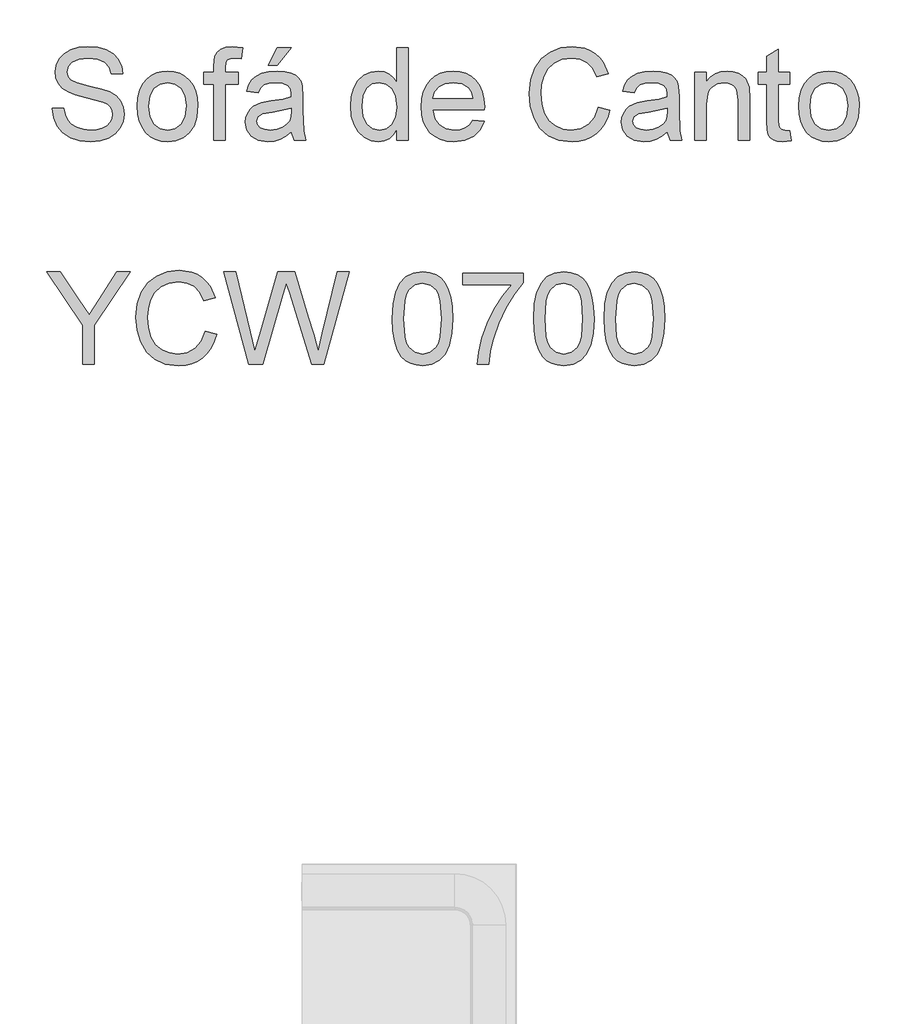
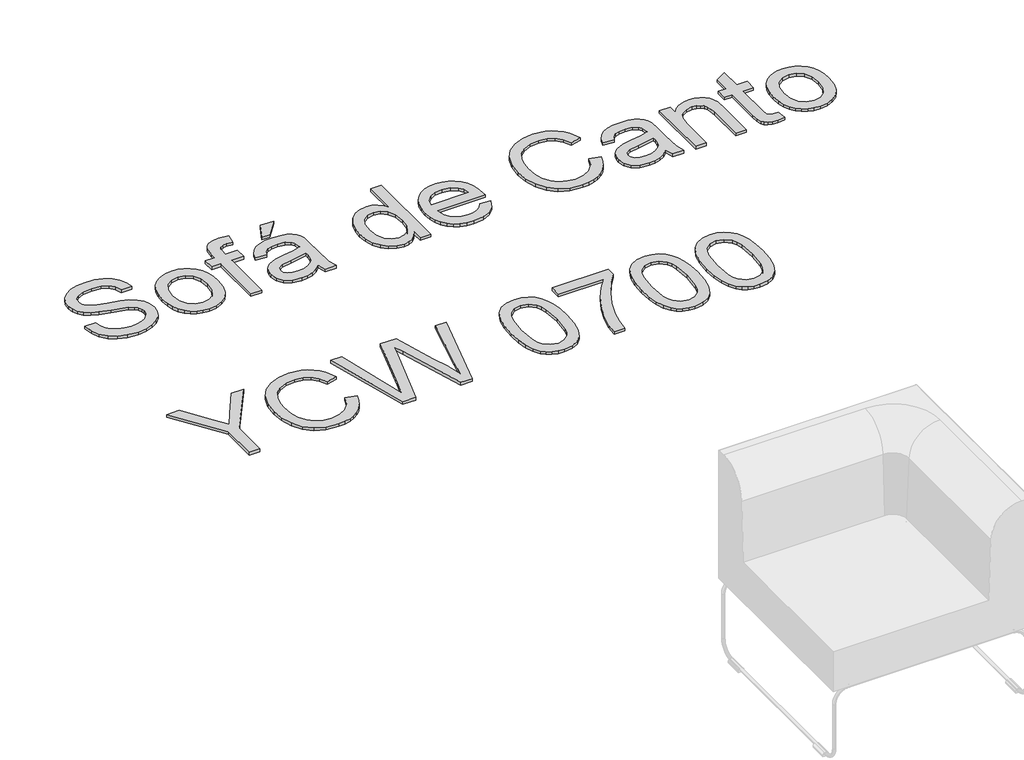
# One storey, part 17 of 26: 1 proxy.
"""IFC4 building model written with IfcOpenShell, lengths in millimetres."""

from ifc_helpers import new_model, si_unit, origin, origin_with_axes, place, context, project, spatial, polyline, outline, extrude, element, save

model = new_model("IFC4")

# Units and contexts
model_context = context("Model", 3, world=origin())
ifc_project = project(units=[si_unit("LENGTHUNIT", "METRE", prefix="MILLI")], contexts=[model_context])

# Site, building, storey
site = spatial("IfcSite", under=ifc_project)
building = spatial("IfcBuilding", under=site)
storey = spatial("IfcBuildingStorey", under=building, Name="Marelli - Linha YOUNG - Planta Baixa", Elevation=0.0)

# Proxy
placement = place(None, origin())
element("IfcBuildingElementProxy", 1, Name="300mm Arial", ObjectType="300mm Arial", at=placement, inside=storey, context=model_context, shape_type="SweptSolid", body=[
    extrude(outline(polyline([(19585.7785887, 188.9537033), (19623.449705, 188.9537033), (19627.7723184, 168.0488089), (19635.5898108, 151.2457988), (19647.7850989, 137.9100765), (19665.2410996, 127.4070455), (19686.5782553, 120.5920316), (19710.4170086, 118.3203602), (19731.4046764, 120.0402086), (19749.7803821, 125.1997535), (19764.6704059, 133.3667338), (19775.201028, 144.1088881), (19781.4642189, 156.442132), (19783.5519493, 169.3823812), (19781.9884508, 181.9915366), (19777.2979553, 192.8900407), (19767.7698117, 202.1882581), (19751.6933685, 209.9965534), (19696.842163, 224.3807394), (19660.8357127, 233.8996861), (19637.7971028, 242.9587802), (19619.0443181, 255.6323149), (19605.754581, 270.9913882), (19597.835921, 288.7049063), (19595.1963677, 308.4417753), (19598.4613204, 330.505498), (19608.2561786, 351.0792986), (19624.3234247, 368.5169052), (19646.4055415, 381.1720458), (19672.9114392, 388.8699765), (19702.2500283, 391.4359535), (19734.0350327, 388.7504149), (19761.8469115, 380.6937992), (19784.6923834, 367.4316533), (19801.578167, 349.129524), (19812.265139, 326.9278456), (19816.514176, 301.9670522), (19778.8430597, 301.9670522), (19771.9268782, 324.4446421), (19757.505904, 340.6682381), (19734.9731318, 350.4906874), (19703.7215563, 353.7648371), (19671.7342168, 350.5274756), (19649.7900558, 340.8153909), (19637.098127, 326.5231754), (19632.867484, 309.5454213), (19635.8657223, 295.0692648), (19644.8604371, 283.4257997), (19666.1240164, 273.0147392), (19706.3703067, 262.3829495), (19747.9041839, 252.2845888), (19773.0305242, 243.473815), (19794.5056357, 229.8069989), (19809.4876299, 212.9396094), (19818.2892067, 193.0555876), (19821.2230656, 170.3388744), (19817.8477483, 147.1163234), (19807.7217963, 125.2733299), (19791.2590771, 106.47456), (19768.8734577, 92.3846796), (19741.9536927, 83.5831028), (19711.8885366, 80.6492439), (19674.9807754, 83.8130291), (19644.6029197, 93.3043846), (19620.4054814, 109.1600986), (19602.0389728, 131.4169593), (19590.2483549, 158.5298623), (19585.7785887, 188.9537033)])), origin_with_axes(), (0.0, 0.0, 1.0), 10.0),
    extrude(outline(polyline([(19863.6030714, 196.0170376), (19865.640218, 224.6796436), (19871.7516576, 249.378321), (19881.9373903, 270.11307), (19896.1974162, 286.8838904), (19910.554011, 297.6030521), (19926.400528, 305.2595961), (19943.736967, 309.8535225), (19962.5633281, 311.3848313), (19983.3463616, 309.5201294), (20002.1382337, 303.9260239), (20018.9389446, 294.6025145), (20033.7484942, 281.5496015), (20045.835717, 265.2087431), (20054.4694476, 246.0213978), (20059.6496859, 223.9875656), (20061.376432, 199.1072464), (20058.3230115, 161.049854), (20049.1627498, 132.0791469), (20034.1623614, 110.3833062), (20013.5885608, 94.1505132), (19989.1519993, 84.0245612), (19962.5633281, 80.6492439), (19941.476792, 82.507048), (19922.5101759, 88.0804602), (19905.6634798, 97.3694806), (19890.9367037, 110.3741091), (19878.9782395, 126.8736166), (19870.4364795, 146.6472739), (19865.3114234, 169.6950809), (19863.6030714, 196.0170376)]), holes=[polyline([(19901.2741877, 196.090614), (19905.6335894, 161.9971501), (19918.7117943, 137.7077414), (19938.393481, 123.1672055), (19962.5633281, 118.3203602), (19986.6228106, 123.1947967), (20006.2677091, 137.818106), (20019.3459141, 162.4294115), (20023.7053157, 197.2678364), (20019.3183229, 230.3680189), (20006.1573445, 254.3263339), (19986.4848548, 268.8668697), (19962.5633281, 273.713715), (19938.393481, 268.8852638), (19918.7117943, 254.3999103), (19905.6335894, 230.1656838), (19901.2741877, 196.090614)])]), origin_with_axes(), (0.0, 0.0, 1.0), 10.0),
    extrude(outline(polyline([(20113.1742169, 85.3581335), (20113.1742169, 269.0048255), (20080.2119902, 269.0048255), (20080.2119902, 306.6759418), (20113.1742169, 306.6759418), (20113.1742169, 328.9695907), (20117.1473425, 360.3867131), (20124.7257116, 372.913095), (20136.424359, 382.8275148), (20152.7951078, 389.2838438), (20174.3897809, 391.4359535), (20208.7499593, 387.3156751), (20203.2317294, 351.9990036), (20181.5266916, 353.7648371), (20167.206885, 352.2013387), (20157.798303, 347.5108432), (20152.5835757, 338.5529166), (20150.8453332, 324.1871247), (20150.8453332, 306.6759418), (20193.2253391, 306.6759418), (20193.2253391, 269.0048255), (20150.8453332, 269.0048255), (20150.8453332, 85.3581335), (20113.1742169, 85.3581335)])), origin_with_axes(), (0.0, 0.0, 1.0), 10.0),
    extrude(outline(polyline([(20367.454252, 113.6114707), (20349.4556254, 98.178821), (20330.9235699, 88.0804602), (20311.4350212, 82.507048), (20290.566915, 80.6492439), (20259.0854133, 85.1190102), (20235.8628623, 98.5283089), (20221.5430557, 118.8905773), (20216.7697868, 144.2192527), (20218.5724086, 159.8358434), (20223.9802739, 174.0176943), (20232.3219981, 186.1578001), (20242.9261966, 195.6491556), (20269.3033357, 208.0099907), (20301.8976805, 213.6753734), (20340.4149254, 219.6350617), (20367.2335228, 226.6248196), (20367.454252, 235.0125291), (20364.8606839, 251.8247363), (20357.0799797, 262.8244079), (20339.6791614, 270.9913882), (20315.4357379, 273.713715), (20292.9949362, 271.9018962), (20277.3231632, 266.4664397), (20266.6361912, 256.4140642), (20259.1497926, 240.7514882), (20221.4786763, 245.4603778), (20228.0177788, 266.0617695), (20237.7758487, 282.2485773), (20251.663394, 294.6278064), (20270.5909227, 303.8064622), (20293.7398972, 309.490239), (20320.2917802, 311.3848313), (20345.7584113, 309.7109682), (20365.9459358, 304.689379), (20381.1670534, 297.138601), (20391.7344637, 287.8771718), (20398.7426157, 276.4268447), (20403.2859583, 262.3093731), (20405.1253683, 229.3471464), (20405.1253683, 182.4789802), (20407.0383547, 117.0327733), (20414.5431474, 85.3581335), (20376.8720311, 85.3581335), (20367.454252, 113.6114707)]), holes=[polyline([(20367.454252, 188.9537033), (20306.6801464, 177.4022087), (20274.2697426, 171.2953675), (20259.591251, 161.3625537), (20254.4409031, 146.8680031), (20257.2460033, 135.6659963), (20265.6613039, 126.4873405), (20279.502864, 120.3621053), (20298.5867425, 118.3203602), (20318.8202522, 120.5736375), (20336.6993172, 127.3334691), (20351.1938678, 137.2938741), (20361.2738345, 149.1488714), (20365.7436007, 161.3625537), (20367.2335228, 178.2851254), (20367.454252, 188.9537033)])]), origin_with_axes(), (0.0, 0.0, 1.0), 10.0),
    extrude(outline(polyline([(20292.1120194, 330.2203895), (20320.3653566, 386.7270639), (20367.454252, 386.7270639), (20320.3653566, 330.2203895), (20292.1120194, 330.2203895)])), origin_with_axes(), (0.0, 0.0, 1.0), 10.0),
    extrude(outline(polyline([(20711.2031883, 85.3581335), (20711.2031883, 120.8955342), (20699.9322037, 103.2877822), (20686.2791831, 90.7108165), (20670.2441267, 83.1646371), (20651.8270343, 80.6492439), (20627.4732462, 84.2912757), (20605.1795973, 95.2173709), (20586.3072509, 112.6641746), (20572.2173705, 135.8683314), (20563.4433849, 163.8917424), (20560.5187231, 195.7963084), (20563.2134587, 227.3054013), (20571.2976655, 255.7610736), (20584.7621466, 279.5446446), (20603.5977047, 297.0374335), (20626.3787973, 307.7979819), (20651.6798815, 311.3848313), (20670.1107694, 308.8188544), (20686.4079418, 301.1209236), (20700.2219107, 289.3211086), (20711.2031883, 274.449479), (20711.2031883, 386.7270639), (20748.8743046, 386.7270639), (20748.8743046, 85.3581335), (20711.2031883, 85.3581335)]), holes=[polyline([(20598.1898394, 195.9434612), (20602.4388764, 161.8683914), (20615.1859876, 137.634165), (20633.708846, 123.1488114), (20655.285125, 118.3203602), (20676.852207, 122.9280822), (20694.9060159, 136.7512482), (20707.1288952, 160.0473755), (20711.2031883, 193.0739817), (20707.0553188, 229.1815995), (20694.6117103, 254.2159693), (20676.0980489, 268.8392786), (20653.7400207, 273.713715), (20631.9430124, 269.0324166), (20614.0823416, 254.9885214), (20602.1629649, 230.8646596), (20598.1898394, 195.9434612)])]), origin_with_axes(), (0.0, 0.0, 1.0), 10.0),
    extrude(outline(polyline([(20960.3328754, 151.282587), (20997.2682277, 146.5736975), (20983.9600966, 118.7434245), (20962.7241084, 97.9396977), (20934.0385098, 84.9718574), (20898.3815474, 80.6492439), (20875.0072452, 82.5139458), (20854.1805257, 88.1080514), (20835.9013891, 97.4315607), (20820.1698353, 110.4844737), (20807.5192932, 126.903507), (20798.4831917, 146.3253771), (20793.0615307, 168.750084), (20791.2543104, 194.1776276), (20793.0799248, 220.4673947), (20798.5567681, 243.6393619), (20807.6848401, 263.6935292), (20820.4641409, 280.6298965), (20836.154308, 294.0851805), (20854.0149788, 303.6960976), (20874.0461535, 309.4626479), (20896.2478319, 311.3848313), (20917.7344397, 309.4672464), (20937.1655068, 303.7144917), (20954.5410333, 294.1265672), (20969.8610191, 280.7034729), (20982.3667077, 263.8038938), (20991.2993424, 243.7865147), (20996.6589232, 220.6513357), (20998.4454501, 194.3983568), (20998.2247209, 184.2448138), (20828.9254268, 184.2448138), (20835.4461351, 156.0466588), (20850.5936763, 135.3165084), (20872.4550638, 122.5693973), (20899.1173114, 118.3203602), (20919.1668802, 120.2885289), (20936.0526637, 126.1930349), (20949.7746622, 136.4017603), (20960.3328754, 151.282587)]), holes=[polyline([(20828.9254268, 221.9159301), (20960.7743338, 221.9159301), (20955.6791682, 241.818346), (20945.691172, 256.0553792), (20923.7286169, 269.2991311), (20896.1006791, 273.713715), (20870.7076244, 270.1912449), (20849.7107595, 259.6238346), (20835.1150413, 243.1519182), (20828.9254268, 221.9159301)])]), origin_with_axes(), (0.0, 0.0, 1.0), 10.0),
    extrude(outline(polyline([(21370.4477237, 192.4853705), (21408.11884, 182.7732858), (21400.664631, 159.3461005), (21390.7364157, 138.8757667), (21378.3341939, 121.3622845), (21363.4579657, 106.8056538), (21346.4434235, 95.3622245), (21327.6262594, 87.1883464), (21307.0064736, 82.2840195), (21284.584066, 80.6492439), (21240.888882, 85.5972568), (21206.1884128, 100.4412953), (21179.5905446, 124.6663247), (21160.2031634, 157.7573101), (21148.3665602, 196.6608311), (21144.4210258, 238.3234671), (21148.881595, 282.2669714), (21162.2633026, 320.2139992), (21183.8671728, 350.9597369), (21212.9942297, 373.2993711), (21247.5383491, 386.9018079), (21285.3934064, 391.4359535), (21326.6973574, 385.5682356), (21344.6660936, 378.2335884), (21360.8460036, 367.9650822), (21374.9703729, 355.03403), (21386.7724872, 339.7117449), (21403.4099504, 301.8934758), (21365.7388341, 292.9171551), (21352.6790233, 320.3887431), (21334.8367465, 339.2334983), (21311.9912746, 350.1320024), (21283.9218784, 353.7648371), (21251.5666569, 349.7365293), (21224.9871828, 337.6516058), (21204.8180524, 318.7792594), (21191.6938622, 294.3886831), (21184.4925721, 266.8159276), (21182.0921421, 238.3970435), (21184.9340305, 203.5954067), (21193.4596958, 173.5026595), (21207.9910346, 149.2684331), (21228.8499437, 132.0423587), (21253.8567223, 121.7508598), (21280.8316696, 118.3203602), (21312.2763832, 122.9924616), (21338.4787783, 137.0087656), (21358.2616326, 160.2221195), (21370.4477237, 192.4853705)])), origin_with_axes(), (0.0, 0.0, 1.0), 10.0),
    extrude(outline(polyline([(21596.4744215, 113.6114707), (21578.4757949, 98.178821), (21559.9437394, 88.0804602), (21540.4551907, 82.507048), (21519.5870845, 80.6492439), (21488.1055828, 85.1190102), (21464.8830318, 98.5283089), (21450.5632252, 118.8905773), (21445.7899563, 144.2192527), (21447.592578, 159.8358434), (21453.0004434, 174.0176943), (21461.3421676, 186.1578001), (21471.9463661, 195.6491556), (21498.3235052, 208.0099907), (21530.91785, 213.6753734), (21569.4350948, 219.6350617), (21596.2536923, 226.6248196), (21596.4744215, 235.0125291), (21593.8808534, 251.8247363), (21586.1001492, 262.8244079), (21568.6993309, 270.9913882), (21544.4559074, 273.713715), (21522.0151057, 271.9018962), (21506.3433327, 266.4664397), (21495.6563607, 256.4140642), (21488.1699621, 240.7514882), (21450.4988458, 245.4603778), (21457.0379483, 266.0617695), (21466.7960182, 282.2485773), (21480.6835635, 294.6278064), (21499.6110922, 303.8064622), (21522.7600667, 309.490239), (21549.3119497, 311.3848313), (21574.7785808, 309.7109682), (21594.9661053, 304.689379), (21610.1872229, 297.138601), (21620.7546332, 287.8771718), (21627.7627852, 276.4268447), (21632.3061278, 262.3093731), (21634.1455378, 229.3471464), (21634.1455378, 182.4789802), (21636.0585242, 117.0327733), (21643.5633169, 85.3581335), (21605.8922006, 85.3581335), (21596.4744215, 113.6114707)]), holes=[polyline([(21596.4744215, 188.9537033), (21535.7003159, 177.4022087), (21503.2899121, 171.2953675), (21488.6114205, 161.3625537), (21483.4610726, 146.8680031), (21486.2661728, 135.6659963), (21494.6814734, 126.4873405), (21508.5230335, 120.3621053), (21527.606912, 118.3203602), (21547.8404217, 120.5736375), (21565.7194867, 127.3334691), (21580.2140373, 137.2938741), (21590.294004, 149.1488714), (21594.7637702, 161.3625537), (21596.2536923, 178.2851254), (21596.4744215, 188.9537033)])]), origin_with_axes(), (0.0, 0.0, 1.0), 10.0),
    extrude(outline(polyline([(21685.9433227, 85.3581335), (21685.9433227, 306.6759418), (21723.614439, 306.6759418), (21723.614439, 275.7738542), (21736.701841, 291.3536567), (21752.4195992, 302.482087), (21770.7677138, 309.1591452), (21791.7461845, 311.3848313), (21810.3150282, 309.5914066), (21827.3203735, 304.2111324), (21841.5022244, 295.9153934), (21851.6005851, 285.3755742), (21862.8945624, 257.67406), (21864.8811252, 221.2537425), (21864.8811252, 85.3581335), (21827.2100089, 85.3581335), (21827.2100089, 216.176971), (21822.8690013, 249.5070797), (21816.8633278, 259.4306965), (21807.5283221, 267.1286273), (21795.5629602, 272.0674431), (21781.6662179, 273.713715), (21759.6024952, 270.0165009), (21740.7945282, 258.9248588), (21733.2782392, 249.8703632), (21727.9094613, 237.4957326), (21723.614439, 202.7860663), (21723.614439, 85.3581335), (21685.9433227, 85.3581335)])), origin_with_axes(), (0.0, 0.0, 1.0), 10.0),
    extrude(outline(polyline([(21996.7300322, 116.7752559), (22001.4389218, 84.2544875), (21973.259161, 80.6492439), (21955.1777609, 82.2127424), (21941.6948858, 86.9032378), (21932.1667421, 94.1321191), (21925.9495364, 103.3107748), (21922.5282338, 119.0745183), (21921.3877996, 146.0586627), (21921.3877996, 269.0048255), (21893.1344624, 269.0048255), (21893.1344624, 306.6759418), (21921.3877996, 306.6759418), (21921.3877996, 360.4602895), (21959.0589159, 382.6067856), (21959.0589159, 306.6759418), (21996.7300322, 306.6759418), (21996.7300322, 269.0048255), (21959.0589159, 269.0048255), (21959.0589159, 147.1623087), (21961.0454787, 127.7381393), (21967.4834136, 120.858746), (21980.3224953, 118.3203602), (21996.7300322, 116.7752559)])), origin_with_axes(), (0.0, 0.0, 1.0), 10.0),
    extrude(outline(polyline([(22024.9833695, 196.0170376), (22027.020516, 224.6796436), (22033.1319557, 249.378321), (22043.3176884, 270.11307), (22057.5777142, 286.8838904), (22071.9343091, 297.6030521), (22087.780826, 305.2595961), (22105.1172651, 309.8535225), (22123.9436262, 311.3848313), (22144.7266596, 309.5201294), (22163.5185318, 303.9260239), (22180.3192427, 294.6025145), (22195.1287922, 281.5496015), (22207.216015, 265.2087431), (22215.8497456, 246.0213978), (22221.029984, 223.9875656), (22222.7567301, 199.1072464), (22219.7033095, 161.049854), (22210.5430478, 132.0791469), (22195.5426595, 110.3833062), (22174.9688589, 94.1505132), (22150.5322974, 84.0245612), (22123.9436262, 80.6492439), (22102.8570901, 82.507048), (22083.890474, 88.0804602), (22067.0437778, 97.3694806), (22052.3170017, 110.3741091), (22040.3585376, 126.8736166), (22031.8167775, 146.6472739), (22026.6917215, 169.6950809), (22024.9833695, 196.0170376)]), holes=[polyline([(22062.6544858, 196.090614), (22067.0138874, 161.9971501), (22080.0920924, 137.7077414), (22099.7737791, 123.1672055), (22123.9436262, 118.3203602), (22148.0031087, 123.1947967), (22167.6480072, 137.818106), (22180.7262121, 162.4294115), (22185.0856138, 197.2678364), (22180.698621, 230.3680189), (22167.5376426, 254.3263339), (22147.8651529, 268.8668697), (22123.9436262, 273.713715), (22099.7737791, 268.8852638), (22080.0920924, 254.3999103), (22067.0138874, 230.1656838), (22062.6544858, 196.090614)])]), origin_with_axes(), (0.0, 0.0, 1.0), 10.0),
    extrude(outline(polyline([(19684.665269, -646.4907736), (19684.665269, -518.8357213), (19566.9430305, -345.1218432), (19611.3831755, -345.1218432), (19674.2174203, -437.9016823), (19706.3703067, -485.2113069), (19738.5967694, -434.517168), (19795.6184787, -345.1218432), (19840.0586237, -345.1218432), (19722.3363853, -518.8357213), (19722.3363853, -646.4907736), (19684.665269, -646.4907736)])), origin_with_axes(), (0.0, 0.0, 1.0), 10.0),
    extrude(outline(polyline([(20084.9208797, -539.3635366), (20122.591996, -549.0756213), (20115.1377871, -572.5028066), (20105.2095717, -592.9731404), (20092.80735, -610.4866226), (20077.9311218, -625.0432533), (20060.9165795, -636.4866826), (20042.0994155, -644.6605607), (20021.4796296, -649.5648875), (19999.057222, -651.1996631), (19955.3620381, -646.2516503), (19920.6615689, -631.4076118), (19894.0637006, -607.1825824), (19874.6763195, -574.091597), (19862.8397163, -535.188076), (19858.8941819, -493.52544), (19863.3547511, -449.5819357), (19876.7364586, -411.6349079), (19898.3403288, -380.8891701), (19927.4673858, -358.549536), (19962.0115051, -344.9470992), (19999.8665624, -340.4129536), (20041.1705134, -346.2806714), (20059.1392496, -353.6153187), (20075.3191596, -363.8838249), (20089.443529, -376.814877), (20101.2456432, -392.1371621), (20117.8831065, -429.9554312), (20080.2119902, -438.9317519), (20067.1521793, -411.4601639), (20049.3099026, -392.6154087), (20026.4644307, -381.7169046), (19998.3950344, -378.0840699), (19966.039813, -382.1123778), (19939.4603388, -394.1973013), (19919.2912084, -413.0696477), (19906.1670183, -437.4602239), (19898.9657282, -465.0329795), (19896.5652982, -493.4518636), (19899.4071866, -528.2535004), (19907.9328518, -558.3462476), (19922.4641906, -582.580474), (19943.3230998, -599.8065484), (19968.3298784, -610.0980472), (19995.3048257, -613.5285468), (20026.7495392, -608.8564455), (20052.9519343, -594.8401415), (20072.7347886, -571.6267876), (20084.9208797, -539.3635366)])), origin_with_axes(), (0.0, 0.0, 1.0), 10.0),
    extrude(outline(polyline([(20228.3212814, -646.4907736), (20146.1364437, -345.1218432), (20184.9847824, -345.1218432), (20232.662289, -543.1895094), (20247.3775688, -604.331497), (20263.1229182, -550.2528437), (20322.8669542, -345.1218432), (20378.8585939, -345.1218432), (20422.2686693, -493.8197456), (20440.8651041, -549.0020449), (20454.5687085, -604.331497), (20468.8425299, -544.9553429), (20516.9614948, -345.1218432), (20555.8098335, -345.1218432), (20473.5514194, -646.4907736), (20433.3051291, -646.4907736), (20361.0531053, -413.9893527), (20350.9731386, -381.5421607), (20339.6423732, -420.6112286), (20273.791496, -646.4907736), (20228.3212814, -646.4907736)])), origin_with_axes(), (0.0, 0.0, 1.0), 10.0),
    extrude(outline(polyline([(20697.0765197, -498.2343295), (20699.8448317, -449.9958029), (20708.1497677, -411.5245433), (20721.9085544, -382.2319394), (20741.0384181, -361.5293801), (20765.6773147, -349.2237274), (20795.9632, -345.1218432), (20819.1765539, -347.5498643), (20839.9618866, -354.8339278), (20857.3443109, -366.6889251), (20870.3489394, -382.8297477), (20880.1713887, -403.1184397), (20888.0072752, -427.4170455), (20893.139229, -458.2731478), (20894.8498803, -498.2343295), (20892.1091594, -546.1969447), (20883.8869968, -584.5762338), (20870.2109837, -613.8964288), (20851.1087111, -634.6817616), (20826.4146321, -647.0701877), (20795.9632, -651.1996631), (20775.2146555, -649.4062384), (20756.8205557, -644.0259642), (20740.7809007, -635.0588406), (20727.0956905, -622.5048675), (20713.9623033, -599.8111469), (20704.5813124, -571.5348171), (20698.9527179, -537.675878), (20697.0765197, -498.2343295)]), holes=[polyline([(20734.747636, -498.1607531), (20739.1622199, -557.4173455), (20744.6804499, -577.6853442), (20752.4059718, -591.7131445), (20772.1244467, -608.0746963), (20795.9632, -613.5285468), (20819.8019533, -608.0563022), (20839.5204282, -591.6395681), (20847.2459501, -577.5887752), (20852.76418, -557.325375), (20857.178764, -498.1607531), (20852.9113328, -440.237733), (20847.5770439, -420.0364129), (20840.1090394, -405.6752196), (20820.4273527, -388.5135245), (20795.5217416, -382.7929595), (20771.9405057, -387.8329428), (20752.9945829, -402.9528928), (20745.0115437, -418.5878776), (20739.3093727, -439.6675159), (20734.747636, -498.1607531)])]), origin_with_axes(), (0.0, 0.0, 1.0), 10.0),
    extrude(outline(polyline([(20927.8121071, -387.501849), (20927.8121071, -349.8307327), (21125.5854677, -349.8307327), (21125.5854677, -380.2913619), (21097.3965098, -415.9667184), (21069.4834634, -461.3357654), (21044.8629609, -512.2598306), (21026.5516346, -564.6002415), (21017.5753139, -603.7612799), (21012.5721187, -646.4907736), (20974.9010024, -646.4907736), (20978.9752955, -607.660829), (20989.8737996, -561.5100327), (21007.3022092, -512.5909244), (21030.9662185, -465.4560438), (21058.5941563, -422.8461117), (21087.9143514, -387.501849), (20927.8121071, -387.501849)])), origin_with_axes(), (0.0, 0.0, 1.0), 10.0),
    extrude(outline(polyline([(21158.5476944, -498.2343295), (21161.3160064, -449.9958029), (21169.6209425, -411.5245433), (21183.3797291, -382.2319394), (21202.5095929, -361.5293801), (21227.1484895, -349.2237274), (21257.4343747, -345.1218432), (21280.6477286, -347.5498643), (21301.4330614, -354.8339278), (21318.8154856, -366.6889251), (21331.8201142, -382.8297477), (21341.6425634, -403.1184397), (21349.4784499, -427.4170455), (21354.6104038, -458.2731478), (21356.321055, -498.2343295), (21353.5803342, -546.1969447), (21345.3581716, -584.5762338), (21331.6821584, -613.8964288), (21312.5798858, -634.6817616), (21287.8858069, -647.0701877), (21257.4343747, -651.1996631), (21236.6858302, -649.4062384), (21218.2917304, -644.0259642), (21202.2520755, -635.0588406), (21188.5668652, -622.5048675), (21175.433478, -599.8111469), (21166.0524871, -571.5348171), (21160.4238926, -537.675878), (21158.5476944, -498.2343295)]), holes=[polyline([(21196.2188107, -498.1607531), (21200.6333947, -557.4173455), (21206.1516246, -577.6853442), (21213.8771465, -591.7131445), (21233.5956214, -608.0746963), (21257.4343747, -613.5285468), (21281.273128, -608.0563022), (21300.991603, -591.6395681), (21308.7171249, -577.5887752), (21314.2353548, -557.325375), (21318.6499387, -498.1607531), (21314.3825076, -440.237733), (21309.0482187, -420.0364129), (21301.5802142, -405.6752196), (21281.8985274, -388.5135245), (21256.9929163, -382.7929595), (21233.4116805, -387.8329428), (21214.4657577, -402.9528928), (21206.4827184, -418.5878776), (21200.7805475, -439.6675159), (21196.2188107, -498.1607531)])]), origin_with_axes(), (0.0, 0.0, 1.0), 10.0),
    extrude(outline(polyline([(21389.2832818, -498.2343295), (21392.0515938, -449.9958029), (21400.3565299, -411.5245433), (21414.1153165, -382.2319394), (21433.2451802, -361.5293801), (21457.8840769, -349.2237274), (21488.1699621, -345.1218432), (21511.383316, -347.5498643), (21532.1686487, -354.8339278), (21549.551073, -366.6889251), (21562.5557015, -382.8297477), (21572.3781508, -403.1184397), (21580.2140373, -427.4170455), (21585.3459911, -458.2731478), (21587.0566424, -498.2343295), (21584.3159216, -546.1969447), (21576.093759, -584.5762338), (21562.4177458, -613.8964288), (21543.3154732, -634.6817616), (21518.6213943, -647.0701877), (21488.1699621, -651.1996631), (21467.4214176, -649.4062384), (21449.0273178, -644.0259642), (21432.9876628, -635.0588406), (21419.3024526, -622.5048675), (21406.1690654, -599.8111469), (21396.7880745, -571.5348171), (21391.15948, -537.675878), (21389.2832818, -498.2343295)]), holes=[polyline([(21426.9543981, -498.1607531), (21431.3689821, -557.4173455), (21436.887212, -577.6853442), (21444.6127339, -591.7131445), (21464.3312088, -608.0746963), (21488.1699621, -613.5285468), (21512.0087154, -608.0563022), (21531.7271903, -591.6395681), (21539.4527122, -577.5887752), (21544.9709422, -557.325375), (21549.3855261, -498.1607531), (21545.118095, -440.237733), (21539.783806, -420.0364129), (21532.3158015, -405.6752196), (21512.6341148, -388.5135245), (21487.7285037, -382.7929595), (21464.1472678, -387.8329428), (21445.2013451, -402.9528928), (21437.2183058, -418.5878776), (21431.5161349, -439.6675159), (21426.9543981, -498.1607531)])]), origin_with_axes(), (0.0, 0.0, 1.0), 10.0),
])

save(model, "model.ifc")
